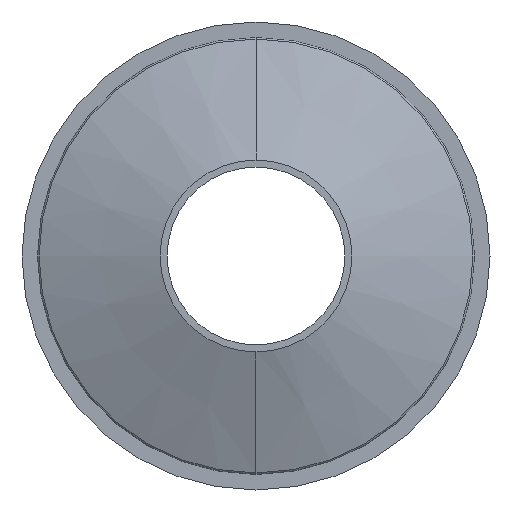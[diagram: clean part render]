
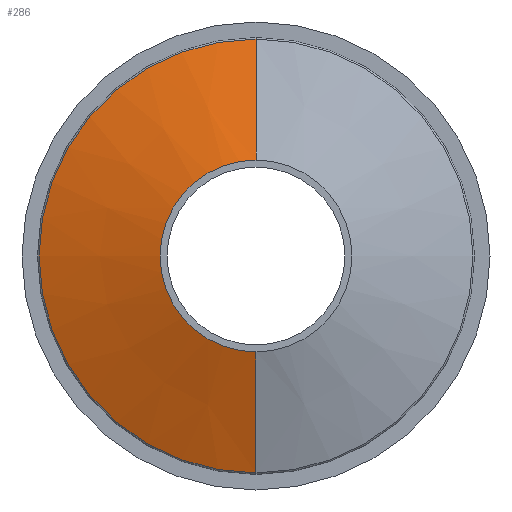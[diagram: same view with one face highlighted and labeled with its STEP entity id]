
A CAD part, left-side view. The second image highlights one B-rep face of the part: STEP entity #286.
In plain terms, the highlighted conical face has half-angle 70 degrees and reference radius 46.348 mm.
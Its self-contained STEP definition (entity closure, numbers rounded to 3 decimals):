
#11 = LINE ( 'NONE', #46, #470 ) ;
#26 = DIRECTION ( 'NONE',  ( -1., 0., 0. ) ) ;
#46 = CARTESIAN_POINT ( 'NONE',  ( -5.311, 0., 46.348 ) ) ;
#50 = CIRCLE ( 'NONE', #116, 20.5 ) ;
#62 = ORIENTED_EDGE ( 'NONE', *, *, #201, .T. ) ;
#88 = VERTEX_POINT ( 'NONE', #162 ) ;
#109 = CARTESIAN_POINT ( 'NONE',  ( -14.719, 0., -20.5 ) ) ;
#116 = AXIS2_PLACEMENT_3D ( 'NONE', #380, #26, #182 ) ;
#161 = VECTOR ( 'NONE', #224, 1000. ) ;
#162 = CARTESIAN_POINT ( 'NONE',  ( -14.719, 0., 20.5 ) ) ;
#165 = ORIENTED_EDGE ( 'NONE', *, *, #438, .F. ) ;
#168 = CARTESIAN_POINT ( 'NONE',  ( -5.311, 0., 0. ) ) ;
#169 = ORIENTED_EDGE ( 'NONE', *, *, #237, .T. ) ;
#179 = VERTEX_POINT ( 'NONE', #323 ) ;
#182 = DIRECTION ( 'NONE',  ( 0., 0., 1. ) ) ;
#201 = EDGE_CURVE ( 'NONE', #179, #465, #213, .T. ) ;
#208 = CARTESIAN_POINT ( 'NONE',  ( -5.311, 0., 0. ) ) ;
#213 = CIRCLE ( 'NONE', #479, 46.348 ) ;
#224 = DIRECTION ( 'NONE',  ( 0.342, 0., -0.94 ) ) ;
#237 = EDGE_CURVE ( 'NONE', #88, #179, #11, .T. ) ;
#240 = AXIS2_PLACEMENT_3D ( 'NONE', #168, #331, #496 ) ;
#251 = FACE_OUTER_BOUND ( 'NONE', #302, .T. ) ;
#286 = ADVANCED_FACE ( 'NONE', ( #251 ), #292, .T. ) ;
#292 = CONICAL_SURFACE ( 'NONE', #240, 46.348, 1.222 ) ;
#298 = LINE ( 'NONE', #417, #161 ) ;
#302 = EDGE_LOOP ( 'NONE', ( #422, #169, #62, #165 ) ) ;
#323 = CARTESIAN_POINT ( 'NONE',  ( -5.311, 0., 46.348 ) ) ;
#331 = DIRECTION ( 'NONE',  ( 1., 0., 0. ) ) ;
#368 = DIRECTION ( 'NONE',  ( 0.342, 0., 0.94 ) ) ;
#373 = DIRECTION ( 'NONE',  ( 0., 0., 1. ) ) ;
#380 = CARTESIAN_POINT ( 'NONE',  ( -14.719, 0., 0. ) ) ;
#417 = CARTESIAN_POINT ( 'NONE',  ( -5.311, 0., -46.348 ) ) ;
#422 = ORIENTED_EDGE ( 'NONE', *, *, #458, .F. ) ;
#438 = EDGE_CURVE ( 'NONE', #515, #465, #298, .T. ) ;
#458 = EDGE_CURVE ( 'NONE', #88, #515, #50, .T. ) ;
#465 = VERTEX_POINT ( 'NONE', #467 ) ;
#467 = CARTESIAN_POINT ( 'NONE',  ( -5.311, 0., -46.348 ) ) ;
#470 = VECTOR ( 'NONE', #368, 1000. ) ;
#479 = AXIS2_PLACEMENT_3D ( 'NONE', #208, #501, #373 ) ;
#496 = DIRECTION ( 'NONE',  ( 0., 0., -1. ) ) ;
#501 = DIRECTION ( 'NONE',  ( -1., 0., 0. ) ) ;
#515 = VERTEX_POINT ( 'NONE', #109 ) ;
